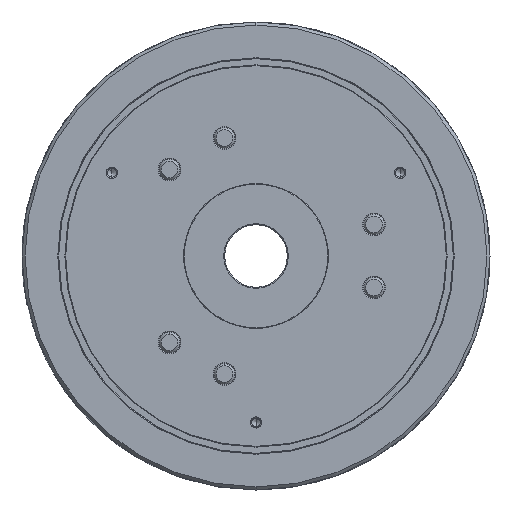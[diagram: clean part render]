
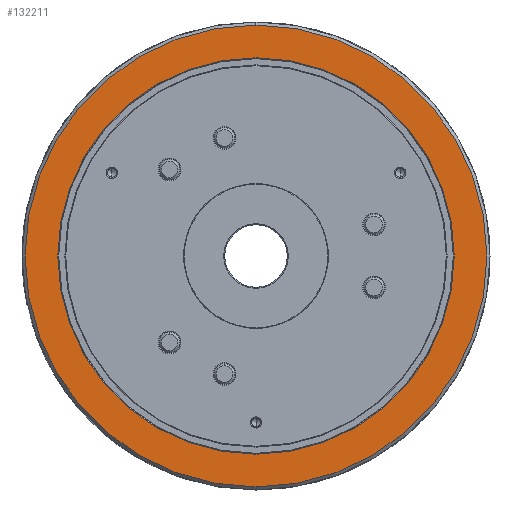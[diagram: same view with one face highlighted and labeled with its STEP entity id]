
A CAD part, left-side view. The second image highlights one B-rep face of the part: STEP entity #132211.
In plain terms, the highlighted planar face has unit normal (-1, 0, 0).
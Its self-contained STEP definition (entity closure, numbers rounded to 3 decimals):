
#7095 = EDGE_CURVE ( 'NONE', #239126, #20926, #233006, .T. ) ;
#20926 = VERTEX_POINT ( 'NONE', #85774 ) ;
#26118 = EDGE_LOOP ( 'NONE', ( #177158, #248120 ) ) ;
#29685 = CARTESIAN_POINT ( 'NONE',  ( -133., 222., 0. ) ) ;
#30422 = EDGE_CURVE ( 'NONE', #39915, #207044, #117224, .T. ) ;
#34415 = DIRECTION ( 'NONE',  ( -1., 0., 0. ) ) ;
#35004 = AXIS2_PLACEMENT_3D ( 'NONE', #240615, #219214, #180173 ) ;
#36657 = AXIS2_PLACEMENT_3D ( 'NONE', #29685, #221195, #184645 ) ;
#39915 = VERTEX_POINT ( 'NONE', #215727 ) ;
#42964 = EDGE_CURVE ( 'NONE', #207044, #39915, #67163, .T. ) ;
#66204 = FACE_OUTER_BOUND ( 'NONE', #106662, .T. ) ;
#67163 = CIRCLE ( 'NONE', #35004, 222. ) ;
#76935 = AXIS2_PLACEMENT_3D ( 'NONE', #226504, #169802, #189918 ) ;
#85774 = CARTESIAN_POINT ( 'NONE',  ( -133., 0., 190.6 ) ) ;
#93095 = DIRECTION ( 'NONE',  ( 0., 0., 1. ) ) ;
#106606 = AXIS2_PLACEMENT_3D ( 'NONE', #111993, #187629, #93095 ) ;
#106662 = EDGE_LOOP ( 'NONE', ( #172132, #180545 ) ) ;
#107751 = PLANE ( 'NONE',  #36657 ) ;
#109000 = FACE_BOUND ( 'NONE', #26118, .T. ) ;
#111993 = CARTESIAN_POINT ( 'NONE',  ( -133., 0., 0. ) ) ;
#117224 = CIRCLE ( 'NONE', #76935, 222. ) ;
#127036 = CARTESIAN_POINT ( 'NONE',  ( -133., 0., -190.6 ) ) ;
#128309 = AXIS2_PLACEMENT_3D ( 'NONE', #207039, #34415, #209497 ) ;
#132211 = ADVANCED_FACE ( 'NONE', ( #109000, #66204 ), #107751, .F. ) ;
#142974 = CIRCLE ( 'NONE', #106606, 190.6 ) ;
#168358 = EDGE_CURVE ( 'NONE', #20926, #239126, #142974, .T. ) ;
#169802 = DIRECTION ( 'NONE',  ( -1., 0., 0. ) ) ;
#172132 = ORIENTED_EDGE ( 'NONE', *, *, #30422, .T. ) ;
#177158 = ORIENTED_EDGE ( 'NONE', *, *, #168358, .F. ) ;
#180173 = DIRECTION ( 'NONE',  ( 0., 0., 1. ) ) ;
#180545 = ORIENTED_EDGE ( 'NONE', *, *, #42964, .T. ) ;
#184645 = DIRECTION ( 'NONE',  ( 0., 0., -1. ) ) ;
#187629 = DIRECTION ( 'NONE',  ( -1., 0., 0. ) ) ;
#189918 = DIRECTION ( 'NONE',  ( 0., 0., 1. ) ) ;
#207039 = CARTESIAN_POINT ( 'NONE',  ( -133., 0., 0. ) ) ;
#207044 = VERTEX_POINT ( 'NONE', #228850 ) ;
#209497 = DIRECTION ( 'NONE',  ( 0., 0., 1. ) ) ;
#215727 = CARTESIAN_POINT ( 'NONE',  ( -133., 0., -222. ) ) ;
#219214 = DIRECTION ( 'NONE',  ( -1., 0., 0. ) ) ;
#221195 = DIRECTION ( 'NONE',  ( 1., 0., 0. ) ) ;
#226504 = CARTESIAN_POINT ( 'NONE',  ( -133., 0., 0. ) ) ;
#228850 = CARTESIAN_POINT ( 'NONE',  ( -133., 0., 222. ) ) ;
#233006 = CIRCLE ( 'NONE', #128309, 190.6 ) ;
#239126 = VERTEX_POINT ( 'NONE', #127036 ) ;
#240615 = CARTESIAN_POINT ( 'NONE',  ( -133., 0., 0. ) ) ;
#248120 = ORIENTED_EDGE ( 'NONE', *, *, #7095, .F. ) ;
